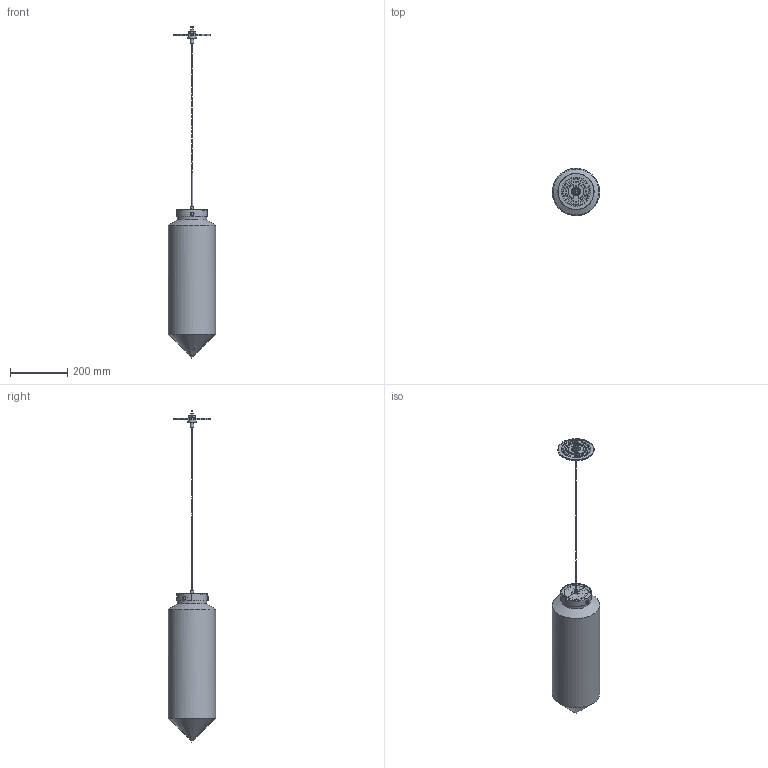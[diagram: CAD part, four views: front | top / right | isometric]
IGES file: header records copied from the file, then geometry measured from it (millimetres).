
Global section: file name: Niche - Dart Grand Pendant; native system: unknown; preprocessor: unknown; author: unknown; organization: unknown; date: 20220902.103522; units: inch
Bounding box: 165.08 x 165.06 x 1158.13 mm (x, y, z)
Volume: 999739.8 mm3; surface area: 625519 mm2
Topology: 29 solids, 29 shells, 703 faces, 1763 edges, 1158 vertices
Faces by surface type: bspline 703
